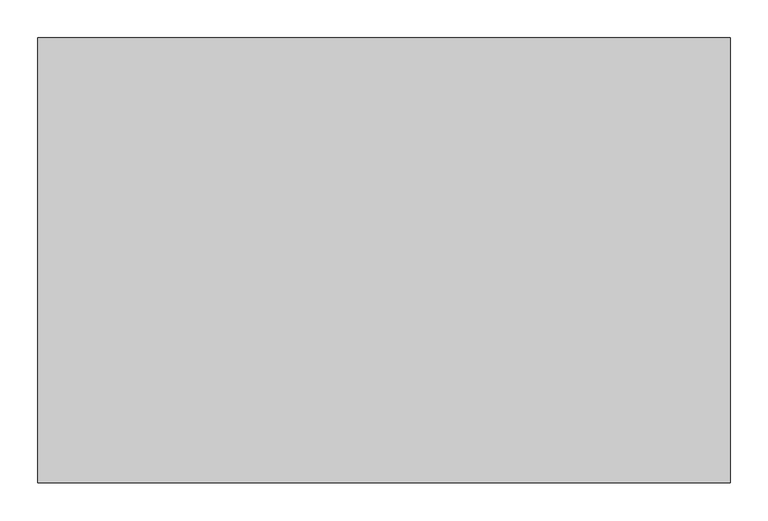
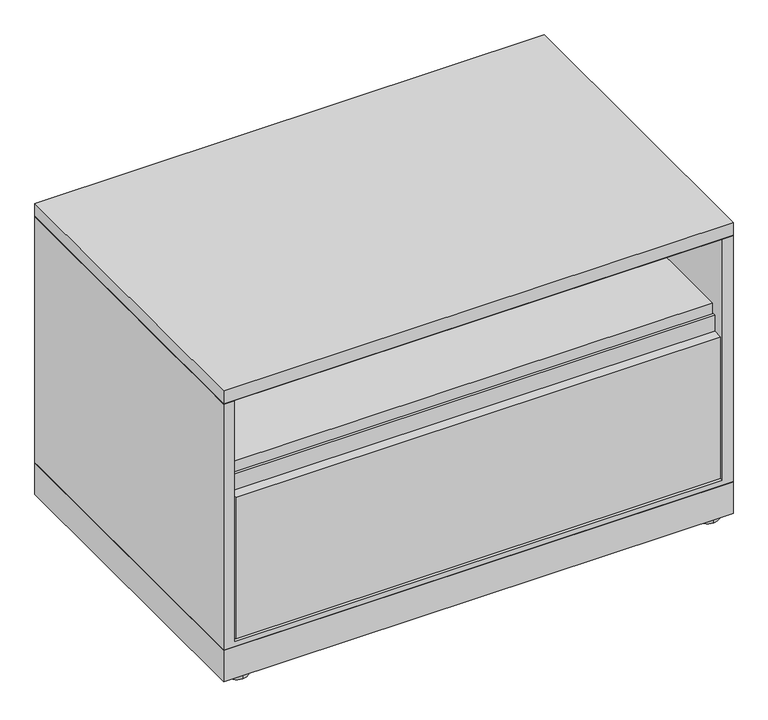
"""IFC4 building model written with IfcOpenShell, lengths in millimetres: furniture geometry, Steelcase - Universal Storage - Lateral File - 1.5 High - Flush Steel : Open/Drawer - 23 1/8D x 36W."""

from ifc_helpers import new_model, si_unit, point, frame, frame_2d, origin, origin_with_axes, place, context, project, spatial, polyline, circle_curve, trimmed, segment, composite_curve, outline, extrude, faceted_brep, source, transform, mapped, element, save


def furniture_8630ad61(model_context):
    return source(origin(), model_context, "Body", "SolidModel", [
        extrude(outline(polyline([(914.4, 587.502), (914.4, 0.0), (0.0, 0.0), (0.0, 587.502), (914.4, 587.502)])), frame((0.0, 0.0, 6.3500002), z_axis=(0.0, 0.0, 1.0), x_axis=(1.0, 0.0, 0.0)), (0.0, 0.0, 1.0), 59.6899998),
        extrude(outline(composite_curve([segment(trimmed(circle_curve(frame_2d((879.7290058, 565.1653666)), 20.32), [point((879.7290058, 544.8453666))], [point((879.7290058, 585.4853666))], False, "CARTESIAN"), True, "CONTINUOUS"), segment(trimmed(circle_curve(frame_2d((879.7290058, 565.1653666)), 20.32), [point((879.7290058, 585.4853666))], [point((879.7290058, 544.8453666))], False, "CARTESIAN"), True, "CONTINUOUS")], self_intersect=False)), origin_with_axes(), (0.0, 0.0, 1.0), 6.3500002),
        extrude(outline(composite_curve([segment(trimmed(circle_curve(frame_2d((879.7290058, 20.7491455)), 20.32), [point((879.7290058, 0.4291455))], [point((879.7290058, 41.0691455))], False, "CARTESIAN"), True, "CONTINUOUS"), segment(trimmed(circle_curve(frame_2d((879.7290058, 20.7491455)), 20.32), [point((879.7290058, 41.0691455))], [point((879.7290058, 0.4291455))], False, "CARTESIAN"), True, "CONTINUOUS")], self_intersect=False)), origin_with_axes(), (0.0, 0.0, 1.0), 6.3500002),
        extrude(outline(composite_curve([segment(trimmed(circle_curve(frame_2d((34.29, 565.1653666)), 20.32), [point((34.29, 585.4853666))], [point((34.29, 544.8453666))], False, "CARTESIAN"), True, "CONTINUOUS"), segment(trimmed(circle_curve(frame_2d((34.29, 565.1653666)), 20.32), [point((34.29, 544.8453666))], [point((34.29, 585.4853666))], False, "CARTESIAN"), True, "CONTINUOUS")], self_intersect=False)), origin_with_axes(), (0.0, 0.0, 1.0), 6.3500002),
        extrude(outline(composite_curve([segment(trimmed(circle_curve(frame_2d((34.29, 20.7491455)), 20.32), [point((34.29, 41.0691455))], [point((34.29, 0.4291455))], False, "CARTESIAN"), True, "CONTINUOUS"), segment(trimmed(circle_curve(frame_2d((34.29, 20.7491455)), 20.32), [point((34.29, 0.4291455))], [point((34.29, 41.0691455))], False, "CARTESIAN"), True, "CONTINUOUS")], self_intersect=False)), origin_with_axes(), (0.0, 0.0, 1.0), 6.3500002),
        extrude(outline(polyline([(568.0964128, 396.7988176), (568.0964128, 410.7687861), (571.271412, 410.7687861), (571.271412, 371.5257963), (26.822418, 371.5257963), (26.822418, 396.7988176), (568.0964128, 396.7988176)])), frame((22.0472, 0.0, 0.0), z_axis=(1.0, 0.0, 0.0), x_axis=(0.0, 1.0, 0.0)), (0.0, 0.0, 1.0), 870.3056),
        extrude(outline(polyline([(1.45e-05, 534.0350121), (587.502, 534.0350121), (586.7399879, 533.273), (0.7620266, 533.273), (1.45e-05, 534.0350121)])), frame((0.0, 0.0, 0.0), z_axis=(1.0, 0.0, 0.0), x_axis=(0.0, 1.0, 0.0)), (0.0, 0.0, 1.0), 914.4),
        extrude(outline(polyline([(914.4, 587.502), (914.4, 0.0), (0.0, 0.0), (0.0, 587.502), (914.4, 587.502)])), frame((0.0, 0.0, 534.0350121), z_axis=(0.0, 0.0, 1.0), x_axis=(1.0, 0.0, 0.0)), (0.0, 0.0, 1.0), 24.6379729),
        faceted_brep([(914.4, 0.0, 66.04), (914.4, 587.502, 66.04), (914.4, 587.502, 533.273), (914.4, 0.0, 533.273), (0.0, 0.0, 533.273), (0.0, 587.502, 533.273), (0.0, 587.502, 66.04), (0.0, 0.0, 66.04), (895.35, 0.0, 533.273), (895.35, 0.0, 75.1586), (19.05, 0.0, 75.1586), (19.05, 0.0, 533.273), (19.05, 584.3269999, 533.273), (895.35, 584.3269999, 533.273), (19.05, 584.3269999, 75.1586), (895.35, 584.3269999, 75.1586)], [[[0, 1, 2, 3]], [[4, 5, 6, 7]], [[0, 3, 8, 9, 10, 11, 4, 7]], [[2, 1, 6, 5]], [[3, 2, 5, 4, 11, 12, 13, 8]], [[12, 14, 15, 13]], [[14, 12, 11, 10]], [[13, 15, 9, 8]], [[1, 0, 7, 6]], [[10, 9, 15, 14]]]),
        extrude(outline(polyline([(23.6541043, 79.2988025), (1.5178885, 79.2988025), (1.5178885, 348.1577823), (19.3741023, 348.1577823), (19.3741023, 378.7648167), (23.6541043, 378.7648167), (23.6541043, 79.2988025)])), frame((22.0472, 0.0, 0.0), z_axis=(1.0, 0.0, 0.0), x_axis=(0.0, 1.0, 0.0)), (0.0, 0.0, 1.0), 870.3056),
    ])


if __name__ == "__main__":
    model = new_model("IFC4")
    model_context = context("Model", 3, world=origin())
    ifc_project = project(units=[si_unit("LENGTHUNIT", "METRE", prefix="MILLI")], contexts=[model_context])
    site = spatial("IfcSite", under=ifc_project)
    building = spatial("IfcBuilding", under=site)
    placement = place(None, origin())
    furniture_shape = furniture_8630ad61(model_context)
    element("IfcFurniture", 1, ObjectType="Steelcase - Universal Storage - Lateral File - 1.5 High - Flush Steel : Open/Drawer - 23 1/8D x 36W", at=placement, inside=building, context=model_context, shape_type="MappedRepresentation", body=[
        mapped(furniture_shape, transform((0.0, 0.0, 0.0), x_axis=(1.0, 0.0, 0.0), y_axis=(0.0, 1.0, 0.0), z_axis=(0.0, 0.0, 1.0))),
    ])
    save(model, "model.ifc")
